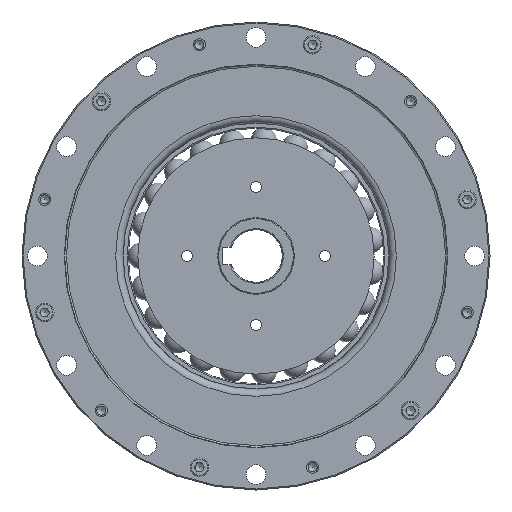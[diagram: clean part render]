
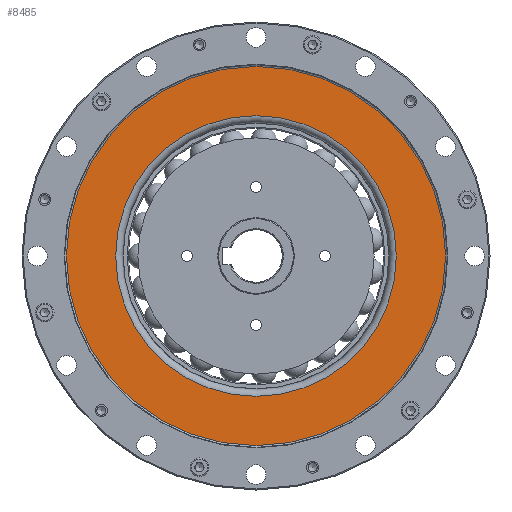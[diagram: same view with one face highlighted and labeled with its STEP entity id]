
A CAD part, left-side view. The second image highlights one B-rep face of the part: STEP entity #8485.
In plain terms, the highlighted planar face has unit normal (-1, 0, 0).
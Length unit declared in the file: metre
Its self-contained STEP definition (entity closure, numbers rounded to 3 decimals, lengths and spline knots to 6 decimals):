
#2978 = VERTEX_POINT ( 'NONE', #14440 ) ;
#3173 = AXIS2_PLACEMENT_3D ( 'NONE', #17093, #10456, #20521 ) ;
#3861 = CIRCLE ( 'NONE', #3173, 0.0867 ) ;
#3909 = CARTESIAN_POINT ( 'NONE',  ( -0.0289, 0., 0. ) ) ;
#4629 = CARTESIAN_POINT ( 'NONE',  ( -0.0289, 0., 0.0867 ) ) ;
#4920 = ORIENTED_EDGE ( 'NONE', *, *, #12670, .F. ) ;
#5421 = DIRECTION ( 'NONE',  ( 1., 0., 0. ) ) ;
#6352 = AXIS2_PLACEMENT_3D ( 'NONE', #3909, #5421, #18738 ) ;
#7038 = FACE_BOUND ( 'NONE', #9683, .T. ) ;
#8485 = ADVANCED_FACE ( 'NONE', ( #7038, #13624 ), #20463, .F. ) ;
#9014 = EDGE_CURVE ( 'NONE', #21154, #21154, #3861, .T. ) ;
#9421 = EDGE_LOOP ( 'NONE', ( #13477 ) ) ;
#9683 = EDGE_LOOP ( 'NONE', ( #4920 ) ) ;
#10456 = DIRECTION ( 'NONE',  ( -1., 0., 0. ) ) ;
#12582 = CIRCLE ( 'NONE', #12948, 0.064176 ) ;
#12670 = EDGE_CURVE ( 'NONE', #2978, #2978, #12582, .T. ) ;
#12948 = AXIS2_PLACEMENT_3D ( 'NONE', #13284, #13068, #19697 ) ;
#13068 = DIRECTION ( 'NONE',  ( -1., 0., 0. ) ) ;
#13284 = CARTESIAN_POINT ( 'NONE',  ( -0.0289, 0., 0. ) ) ;
#13477 = ORIENTED_EDGE ( 'NONE', *, *, #9014, .T. ) ;
#13624 = FACE_OUTER_BOUND ( 'NONE', #9421, .T. ) ;
#14440 = CARTESIAN_POINT ( 'NONE',  ( -0.0289, 0., 0.064176 ) ) ;
#17093 = CARTESIAN_POINT ( 'NONE',  ( -0.0289, 0., 0. ) ) ;
#18738 = DIRECTION ( 'NONE',  ( 0., 0., -1. ) ) ;
#19697 = DIRECTION ( 'NONE',  ( 0., 0., 1. ) ) ;
#20463 = PLANE ( 'NONE',  #6352 ) ;
#20521 = DIRECTION ( 'NONE',  ( 0., 0., 1. ) ) ;
#21154 = VERTEX_POINT ( 'NONE', #4629 ) ;
